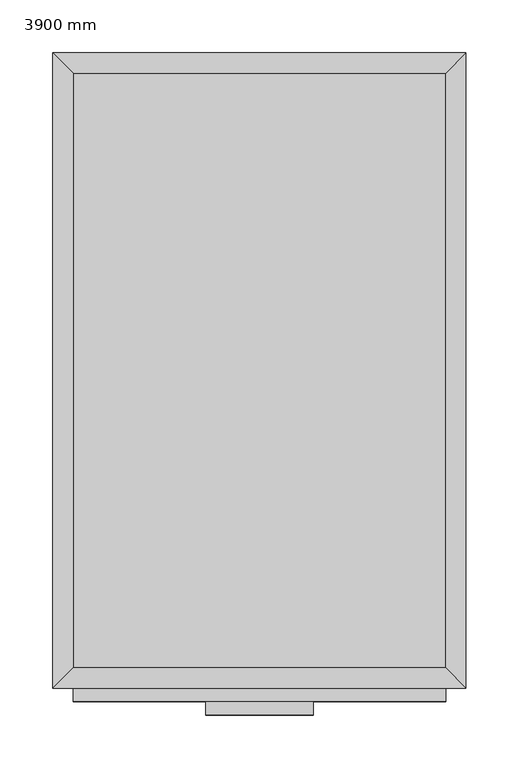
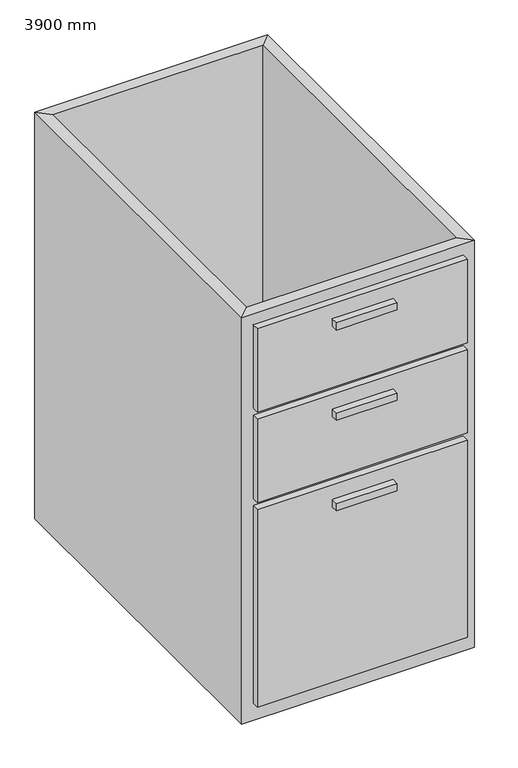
"""IFC4 building model written with IfcOpenShell, lengths in millimetres: furniture geometry, Armario 3 cajones : 3900 mm."""

from ifc_helpers import new_model, si_unit, frame, origin, place, context, project, spatial, polyline, outline, extrude, faceted_brep, source, transform, mapped, element, save


def furniture_3900_mm_204c5ad0(model_context):
    return source(origin(), model_context, "Body", "SolidModel", [
        extrude(outline(polyline([(194.6877049, -19.05), (194.6877049, -580.95), (-157.2122951, -580.95), (-157.2122951, -19.05), (194.6877049, -19.05)])), frame((0.0, 0.0, 150.0), z_axis=(0.0, 0.0, 1.0), x_axis=(1.0, 0.0, 0.0)), (0.0, 0.0, 1.0), 19.05),
        faceted_brep([(194.6877049, -580.95, 870.0), (194.6877049, -580.95, 150.0), (-157.2122951, -580.95, 150.0), (-157.2122951, -580.95, 870.0), (213.7377049, -600.0, 870.0), (-176.2622951, -600.0, 870.0), (213.7377049, -600.0, 150.0), (-176.2622951, -600.0, 150.0), (-157.2122951, -19.05, 150.0), (-157.2122951, -19.05, 870.0), (-176.2622951, 0.0, 870.0), (-176.2622951, 0.0, 150.0), (194.6877049, -19.05, 150.0), (194.6877049, -19.05, 870.0), (213.7377049, 0.0, 870.0), (213.7377049, 0.0, 150.0)], [[[0, 1, 2, 3]], [[4, 0, 3, 5]], [[6, 4, 5, 7]], [[1, 6, 7, 2]], [[3, 2, 8, 9]], [[5, 3, 9, 10]], [[7, 5, 10, 11]], [[2, 7, 11, 8]], [[9, 8, 12, 13]], [[10, 9, 13, 14]], [[11, 10, 14, 15]], [[8, 11, 15, 12]], [[13, 12, 1, 0]], [[14, 13, 0, 4]], [[15, 14, 4, 6]], [[12, 15, 6, 1]]]),
        extrude(outline(polyline([(194.6877049, -612.7), (-157.2122951, -612.7), (-157.2122951, -600.0), (194.6877049, -600.0), (194.6877049, -612.7)])), frame((0.0, 0.0, 703.65), z_axis=(0.0, 0.0, 1.0), x_axis=(1.0, 0.0, 0.0)), (0.0, 0.0, 1.0), 147.3),
        extrude(outline(polyline([(194.6877049, -612.7), (-157.2122951, -612.7), (-157.2122951, -600.0), (194.6877049, -600.0), (194.6877049, -612.7)])), frame((0.0, 0.0, 543.65), z_axis=(0.0, 0.0, 1.0), x_axis=(1.0, 0.0, 0.0)), (0.0, 0.0, 1.0), 147.3),
        extrude(outline(polyline([(194.6877049, -612.7), (-157.2122951, -612.7), (-157.2122951, -600.0), (194.6877049, -600.0), (194.6877049, -612.7)])), frame((0.0, 0.0, 181.75), z_axis=(0.0, 0.0, 1.0), x_axis=(1.0, 0.0, 0.0)), (0.0, 0.0, 1.0), 349.2),
        extrude(outline(polyline([(69.5377049, -625.4), (-32.0622951, -625.4), (-32.0622951, -612.7), (69.5377049, -612.7), (69.5377049, -625.4)])), frame((0.0, 0.0, 812.85), z_axis=(0.0, 0.0, 1.0), x_axis=(1.0, 0.0, 0.0)), (0.0, 0.0, 1.0), 12.7),
        extrude(outline(polyline([(69.5377049, -625.4), (-32.0622951, -625.4), (-32.0622951, -612.7), (69.5377049, -612.7), (69.5377049, -625.4)])), frame((0.0, 0.0, 652.85), z_axis=(0.0, 0.0, 1.0), x_axis=(1.0, 0.0, 0.0)), (0.0, 0.0, 1.0), 12.7),
        extrude(outline(polyline([(69.5377049, -625.4), (-32.0622951, -625.4), (-32.0622951, -612.7), (69.5377049, -612.7), (69.5377049, -625.4)])), frame((0.0, 0.0, 492.85), z_axis=(0.0, 0.0, 1.0), x_axis=(1.0, 0.0, 0.0)), (0.0, 0.0, 1.0), 12.7),
    ])


if __name__ == "__main__":
    model = new_model("IFC4")
    model_context = context("Model", 3, world=origin())
    ifc_project = project(units=[si_unit("LENGTHUNIT", "METRE", prefix="MILLI")], contexts=[model_context])
    site = spatial("IfcSite", under=ifc_project)
    building = spatial("IfcBuilding", under=site)
    placement = place(None, origin())
    furniture_3900_mm_shape = furniture_3900_mm_204c5ad0(model_context)
    element("IfcFurniture", 1, ObjectType="Armario 3 cajones : 3900 mm", at=placement, inside=building, context=model_context, shape_type="MappedRepresentation", body=[
        mapped(furniture_3900_mm_shape, transform((0.0, 0.0, 0.0), x_axis=(1.0, 0.0, 0.0), y_axis=(0.0, 1.0, 0.0), z_axis=(0.0, 0.0, 1.0))),
    ])
    save(model, "model.ifc")
